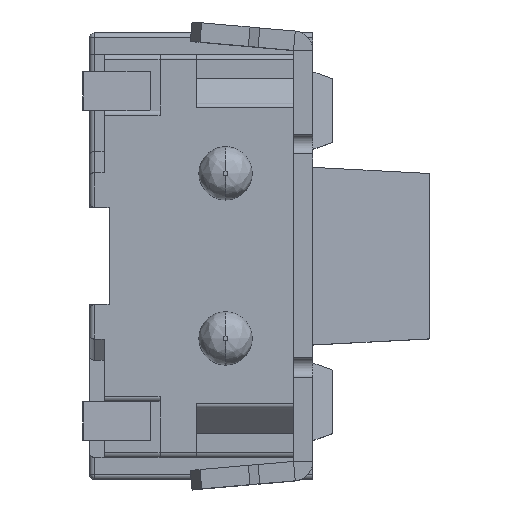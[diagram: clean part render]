
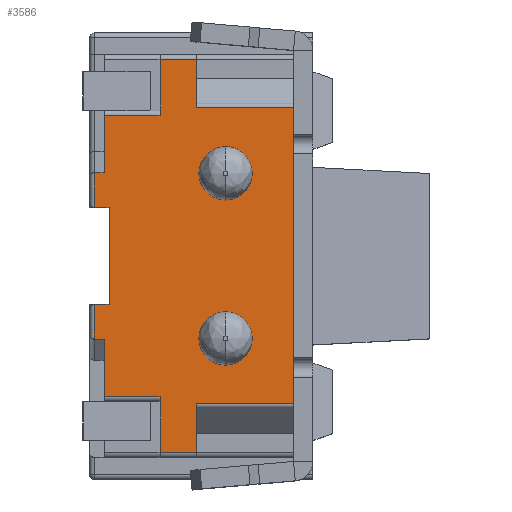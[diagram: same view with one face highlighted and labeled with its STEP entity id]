
A CAD part, top view. The second image highlights one B-rep face of the part: STEP entity #3586.
In plain terms, the highlighted planar face has unit normal (0, 0, 1).
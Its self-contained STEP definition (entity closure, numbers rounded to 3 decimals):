
#288=CARTESIAN_POINT('',(1.4,0.85,1.35));
#289=DIRECTION('',(0.,0.,1.));
#290=DIRECTION('',(0.,-1.,0.));
#291=AXIS2_PLACEMENT_3D('',#288,#289,#290);
#296=CARTESIAN_POINT('',(1.4,0.85,1.35));
#297=DIRECTION('',(0.,0.,1.));
#298=DIRECTION('',(0.,1.,0.));
#299=AXIS2_PLACEMENT_3D('',#296,#297,#298);
#304=CARTESIAN_POINT('',(1.4,-0.85,1.35));
#305=DIRECTION('',(0.,0.,1.));
#306=DIRECTION('',(0.,-1.,0.));
#307=AXIS2_PLACEMENT_3D('',#304,#305,#306);
#312=CARTESIAN_POINT('',(1.4,-0.85,1.35));
#313=DIRECTION('',(0.,0.,1.));
#314=DIRECTION('',(0.,1.,0.));
#315=AXIS2_PLACEMENT_3D('',#312,#313,#314);
#320=DIRECTION('',(0.,1.,0.));
#321=VECTOR('',#320,0.357);
#322=CARTESIAN_POINT('',(0.05,0.5,1.35));
#323=LINE('',#322,#321);
#327=DIRECTION('',(1.,0.,0.));
#328=VECTOR('',#327,0.1);
#329=CARTESIAN_POINT('',(0.05,0.857,1.35));
#330=LINE('',#329,#328);
#334=DIRECTION('',(0.,-1.,0.));
#335=VECTOR('',#334,0.593);
#336=CARTESIAN_POINT('',(0.15,1.45,1.35));
#337=LINE('',#336,#335);
#341=DIRECTION('',(-1.,0.,0.));
#342=VECTOR('',#341,0.575);
#343=CARTESIAN_POINT('',(0.725,1.45,1.35));
#344=LINE('',#343,#342);
#348=DIRECTION('',(-1.,0.,0.));
#349=VECTOR('',#348,0.375);
#350=CARTESIAN_POINT('',(1.1,2.025,1.35));
#351=LINE('',#350,#349);
#355=DIRECTION('',(-1.,0.,0.));
#356=VECTOR('',#355,1.);
#357=CARTESIAN_POINT('',(2.1,1.525,1.35));
#358=LINE('',#357,#356);
#362=DIRECTION('',(1.,0.,0.));
#363=VECTOR('',#362,1.);
#364=CARTESIAN_POINT('',(1.1,-1.525,1.35));
#365=LINE('',#364,#363);
#369=DIRECTION('',(1.,0.,0.));
#370=VECTOR('',#369,0.375);
#371=CARTESIAN_POINT('',(0.725,-2.025,1.35));
#372=LINE('',#371,#370);
#376=DIRECTION('',(1.,0.,0.));
#377=VECTOR('',#376,0.575);
#378=CARTESIAN_POINT('',(0.15,-1.45,1.35));
#379=LINE('',#378,#377);
#383=DIRECTION('',(0.,-1.,0.));
#384=VECTOR('',#383,0.593);
#385=CARTESIAN_POINT('',(0.15,-0.857,1.35));
#386=LINE('',#385,#384);
#390=DIRECTION('',(1.,0.,0.));
#391=VECTOR('',#390,0.1);
#392=CARTESIAN_POINT('',(0.05,-0.857,1.35));
#393=LINE('',#392,#391);
#397=DIRECTION('',(0.,1.,0.));
#398=VECTOR('',#397,0.357);
#399=CARTESIAN_POINT('',(0.05,-0.857,1.35));
#400=LINE('',#399,#398);
#404=DIRECTION('',(1.,0.,0.));
#405=VECTOR('',#404,0.15);
#406=CARTESIAN_POINT('',(0.05,-0.5,1.35));
#407=LINE('',#406,#405);
#411=DIRECTION('',(0.,-1.,0.));
#412=VECTOR('',#411,1.);
#413=CARTESIAN_POINT('',(0.2,0.5,1.35));
#414=LINE('',#413,#412);
#418=DIRECTION('',(1.,0.,0.));
#419=VECTOR('',#418,0.15);
#420=CARTESIAN_POINT('',(0.05,0.5,1.35));
#421=LINE('',#420,#419);
#902=DIRECTION('',(0.,-1.,0.));
#903=VECTOR('',#902,0.575);
#904=CARTESIAN_POINT('',(0.725,-1.45,1.35));
#905=LINE('',#904,#903);
#924=DIRECTION('',(0.,1.,0.));
#925=VECTOR('',#924,0.5);
#926=CARTESIAN_POINT('',(1.1,-2.025,1.35));
#927=LINE('',#926,#925);
#1048=DIRECTION('',(0.,-1.,0.));
#1049=VECTOR('',#1048,3.05);
#1050=CARTESIAN_POINT('',(2.1,1.525,1.35));
#1051=LINE('',#1050,#1049);
#2262=DIRECTION('',(0.,1.,0.));
#2263=VECTOR('',#2262,0.5);
#2264=CARTESIAN_POINT('',(1.1,1.525,1.35));
#2265=LINE('',#2264,#2263);
#2327=DIRECTION('',(0.,-1.,0.));
#2328=VECTOR('',#2327,0.575);
#2329=CARTESIAN_POINT('',(0.725,2.025,1.35));
#2330=LINE('',#2329,#2328);
#2864=CARTESIAN_POINT('',(1.4,0.575,1.35));
#2865=CARTESIAN_POINT('',(1.4,1.125,1.35));
#2866=VERTEX_POINT('',#2864);
#2867=VERTEX_POINT('',#2865);
#2868=CARTESIAN_POINT('',(1.4,-1.125,1.35));
#2869=CARTESIAN_POINT('',(1.4,-0.575,1.35));
#2870=VERTEX_POINT('',#2868);
#2871=VERTEX_POINT('',#2869);
#2892=CARTESIAN_POINT('',(0.2,0.5,1.35));
#2893=CARTESIAN_POINT('',(0.2,-0.5,1.35));
#2894=VERTEX_POINT('',#2892);
#2895=VERTEX_POINT('',#2893);
#3028=CARTESIAN_POINT('',(0.15,0.857,1.35));
#3029=VERTEX_POINT('',#3028);
#3030=CARTESIAN_POINT('',(0.15,-0.857,1.35));
#3032=VERTEX_POINT('',#3030);
#3044=CARTESIAN_POINT('',(1.1,-2.025,1.35));
#3046=VERTEX_POINT('',#3044);
#3050=CARTESIAN_POINT('',(0.725,-2.025,1.35));
#3051=VERTEX_POINT('',#3050);
#3060=CARTESIAN_POINT('',(2.1,-1.525,1.35));
#3062=VERTEX_POINT('',#3060);
#3066=CARTESIAN_POINT('',(1.1,-1.525,1.35));
#3067=VERTEX_POINT('',#3066);
#3080=CARTESIAN_POINT('',(2.1,1.525,1.35));
#3081=VERTEX_POINT('',#3080);
#3082=CARTESIAN_POINT('',(1.1,1.525,1.35));
#3083=VERTEX_POINT('',#3082);
#3084=CARTESIAN_POINT('',(0.725,2.025,1.35));
#3086=VERTEX_POINT('',#3084);
#3090=CARTESIAN_POINT('',(1.1,2.025,1.35));
#3091=VERTEX_POINT('',#3090);
#3100=CARTESIAN_POINT('',(0.725,1.45,1.35));
#3101=CARTESIAN_POINT('',(0.15,1.45,1.35));
#3102=VERTEX_POINT('',#3100);
#3103=VERTEX_POINT('',#3101);
#3112=CARTESIAN_POINT('',(0.15,-1.45,1.35));
#3113=CARTESIAN_POINT('',(0.725,-1.45,1.35));
#3114=VERTEX_POINT('',#3112);
#3115=VERTEX_POINT('',#3113);
#3146=CARTESIAN_POINT('',(0.05,0.5,1.35));
#3147=VERTEX_POINT('',#3146);
#3148=CARTESIAN_POINT('',(0.05,0.857,1.35));
#3149=VERTEX_POINT('',#3148);
#3165=CARTESIAN_POINT('',(0.05,-0.857,1.35));
#3167=VERTEX_POINT('',#3165);
#3168=CARTESIAN_POINT('',(0.05,-0.5,1.35));
#3169=VERTEX_POINT('',#3168);
#3529=CARTESIAN_POINT('',(0.,2.3,1.35));
#3530=DIRECTION('',(0.,0.,1.));
#3531=DIRECTION('',(0.,-1.,0.));
#3532=AXIS2_PLACEMENT_3D('',#3529,#3530,#3531);
#3533=PLANE('',#3532);
#3534=ORIENTED_EDGE('',*,*,#3520,.T.);
#3536=ORIENTED_EDGE('',*,*,#3535,.T.);
#3538=ORIENTED_EDGE('',*,*,#3537,.F.);
#3540=ORIENTED_EDGE('',*,*,#3539,.F.);
#3542=ORIENTED_EDGE('',*,*,#3541,.F.);
#3544=ORIENTED_EDGE('',*,*,#3543,.F.);
#3546=ORIENTED_EDGE('',*,*,#3545,.F.);
#3548=ORIENTED_EDGE('',*,*,#3547,.F.);
#3550=ORIENTED_EDGE('',*,*,#3549,.T.);
#3552=ORIENTED_EDGE('',*,*,#3551,.F.);
#3554=ORIENTED_EDGE('',*,*,#3553,.F.);
#3556=ORIENTED_EDGE('',*,*,#3555,.F.);
#3558=ORIENTED_EDGE('',*,*,#3557,.F.);
#3560=ORIENTED_EDGE('',*,*,#3559,.F.);
#3562=ORIENTED_EDGE('',*,*,#3561,.F.);
#3564=ORIENTED_EDGE('',*,*,#3563,.F.);
#3566=ORIENTED_EDGE('',*,*,#3565,.T.);
#3568=ORIENTED_EDGE('',*,*,#3567,.T.);
#3570=ORIENTED_EDGE('',*,*,#3569,.F.);
#3571=ORIENTED_EDGE('',*,*,#3486,.F.);
#3572=EDGE_LOOP('',(#3534,#3536,#3538,#3540,#3542,#3544,#3546,#3548,#3550,#3552,
#3554,#3556,#3558,#3560,#3562,#3564,#3566,#3568,#3570,#3571));
#3573=FACE_OUTER_BOUND('',#3572,.F.);
#3575=ORIENTED_EDGE('',*,*,#3574,.T.);
#3577=ORIENTED_EDGE('',*,*,#3576,.T.);
#3578=EDGE_LOOP('',(#3575,#3577));
#3579=FACE_BOUND('',#3578,.F.);
#3581=ORIENTED_EDGE('',*,*,#3580,.T.);
#3583=ORIENTED_EDGE('',*,*,#3582,.T.);
#3584=EDGE_LOOP('',(#3581,#3583));
#3585=FACE_BOUND('',#3584,.F.);
#292=CIRCLE('',#291,0.275);
#300=CIRCLE('',#299,0.275);
#308=CIRCLE('',#307,0.275);
#316=CIRCLE('',#315,0.275);
#3486=EDGE_CURVE('',#3147,#2894,#421,.T.);
#3520=EDGE_CURVE('',#3147,#3149,#323,.T.);
#3535=EDGE_CURVE('',#3149,#3029,#330,.T.);
#3537=EDGE_CURVE('',#3103,#3029,#337,.T.);
#3539=EDGE_CURVE('',#3102,#3103,#344,.T.);
#3541=EDGE_CURVE('',#3086,#3102,#2330,.T.);
#3543=EDGE_CURVE('',#3091,#3086,#351,.T.);
#3545=EDGE_CURVE('',#3083,#3091,#2265,.T.);
#3547=EDGE_CURVE('',#3081,#3083,#358,.T.);
#3549=EDGE_CURVE('',#3081,#3062,#1051,.T.);
#3551=EDGE_CURVE('',#3067,#3062,#365,.T.);
#3553=EDGE_CURVE('',#3046,#3067,#927,.T.);
#3555=EDGE_CURVE('',#3051,#3046,#372,.T.);
#3557=EDGE_CURVE('',#3115,#3051,#905,.T.);
#3559=EDGE_CURVE('',#3114,#3115,#379,.T.);
#3561=EDGE_CURVE('',#3032,#3114,#386,.T.);
#3563=EDGE_CURVE('',#3167,#3032,#393,.T.);
#3565=EDGE_CURVE('',#3167,#3169,#400,.T.);
#3567=EDGE_CURVE('',#3169,#2895,#407,.T.);
#3569=EDGE_CURVE('',#2894,#2895,#414,.T.);
#3574=EDGE_CURVE('',#2870,#2871,#308,.T.);
#3576=EDGE_CURVE('',#2871,#2870,#316,.T.);
#3580=EDGE_CURVE('',#2866,#2867,#292,.T.);
#3582=EDGE_CURVE('',#2867,#2866,#300,.T.);
#3586=ADVANCED_FACE('',(#3573,#3579,#3585),#3533,.T.);
